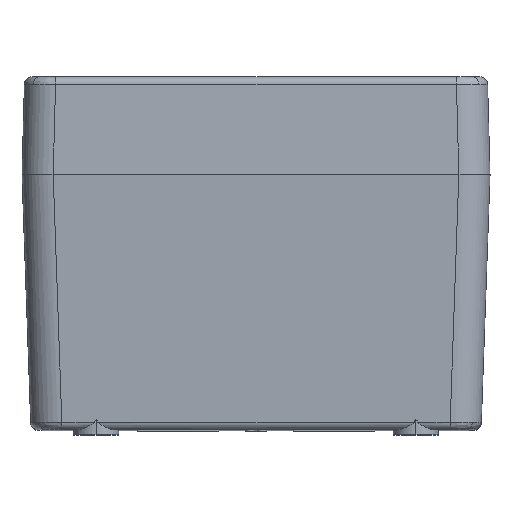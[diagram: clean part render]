
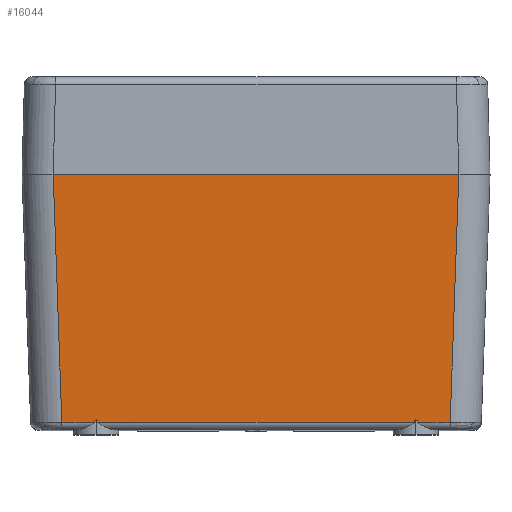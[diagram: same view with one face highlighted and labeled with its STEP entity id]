
A CAD part, top view. The second image highlights one B-rep face of the part: STEP entity #16044.
In plain terms, the highlighted planar face has unit normal (0, -0.035, 0.999).
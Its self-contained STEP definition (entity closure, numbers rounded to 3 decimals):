
#330 = CARTESIAN_POINT ( 'NONE',  ( 41., -63., 53. ) ) ;
#425 = CARTESIAN_POINT ( 'NONE',  ( 41.48, -63.57, 58.78 ) ) ;
#459 = ORIENTED_EDGE ( 'NONE', *, *, #4845, .T. ) ;
#491 = AXIS2_PLACEMENT_3D ( 'NONE', #9678, #1929, #11014 ) ;
#639 = DIRECTION ( 'NONE',  ( 0., 0., -1. ) ) ;
#815 = EDGE_LOOP ( 'NONE', ( #14766, #16260, #459, #14487, #3077, #12470, #15620, #6868, #8228, #10881, #2419, #12090, #3340, #14585 ) ) ;
#1444 = CARTESIAN_POINT ( 'NONE',  ( 41.01, -63., 58.8 ) ) ;
#1513 = CARTESIAN_POINT ( 'NONE',  ( -40.676, -63.198, 58.793 ) ) ;
#1640 = DIRECTION ( 'NONE',  ( 0., 0., -1. ) ) ;
#1891 = LINE ( 'NONE', #2070, #2310 ) ;
#1929 = DIRECTION ( 'NONE',  ( 0., -1., 0. ) ) ;
#1977 = CARTESIAN_POINT ( 'NONE',  ( 40.833, -63.008, 58.8 ) ) ;
#2070 = CARTESIAN_POINT ( 'NONE',  ( -60., 0., 61. ) ) ;
#2140 = VERTEX_POINT ( 'NONE', #5890 ) ;
#2189 = VERTEX_POINT ( 'NONE', #5786 ) ;
#2233 = DIRECTION ( 'NONE',  ( 0., -0.035, 0.999 ) ) ;
#2246 = CARTESIAN_POINT ( 'NONE',  ( -41.48, -63.57, 58.78 ) ) ;
#2310 = VECTOR ( 'NONE', #7360, 1000. ) ;
#2378 = VERTEX_POINT ( 'NONE', #2246 ) ;
#2419 = ORIENTED_EDGE ( 'NONE', *, *, #13109, .T. ) ;
#2659 = DIRECTION ( 'NONE',  ( 1., 0., 0. ) ) ;
#3009 = CARTESIAN_POINT ( 'NONE',  ( 41.01, -63., 58.8 ) ) ;
#3026 = CARTESIAN_POINT ( 'NONE',  ( 49.785, -63.57, 58.78 ) ) ;
#3077 = ORIENTED_EDGE ( 'NONE', *, *, #6624, .T. ) ;
#3221 = CARTESIAN_POINT ( 'NONE',  ( -52.005, 0., 61. ) ) ;
#3340 = ORIENTED_EDGE ( 'NONE', *, *, #13304, .F. ) ;
#3614 = VERTEX_POINT ( 'NONE', #3221 ) ;
#3729 = CARTESIAN_POINT ( 'NONE',  ( -41., -63., 58.8 ) ) ;
#3892 = CARTESIAN_POINT ( 'NONE',  ( -60., -63.57, 58.78 ) ) ;
#4489 = DIRECTION ( 'NONE',  ( 0., -1., 0. ) ) ;
#4818 =( BOUNDED_CURVE ( )  B_SPLINE_CURVE ( 3, ( #12373, #1977, #15029, #7192 ),
 .UNSPECIFIED., .F., .T. ) 
 B_SPLINE_CURVE_WITH_KNOTS ( ( 4, 4 ),
 ( 3.143, 3.224 ),
 .UNSPECIFIED. ) 
 CURVE ( )  GEOMETRIC_REPRESENTATION_ITEM ( )  RATIONAL_B_SPLINE_CURVE ( ( 1., 0.999, 0.999, 1. ) ) 
 REPRESENTATION_ITEM ( '' )  );
#4845 = EDGE_CURVE ( 'NONE', #14628, #2140, #12808, .T. ) ;
#5104 = VERTEX_POINT ( 'NONE', #9314 ) ;
#5418 =( BOUNDED_CURVE ( )  B_SPLINE_CURVE ( 3, ( #12477, #15076, #7292, #16443 ),
 .UNSPECIFIED., .F., .F. ) 
 B_SPLINE_CURVE_WITH_KNOTS ( ( 4, 4 ),
 ( 3.143, 3.224 ),
 .UNSPECIFIED. ) 
 CURVE ( )  GEOMETRIC_REPRESENTATION_ITEM ( )  RATIONAL_B_SPLINE_CURVE ( ( 1., 0.999, 0.999, 1. ) ) 
 REPRESENTATION_ITEM ( '' )  );
#5454 = EDGE_CURVE ( 'NONE', #7322, #14155, #10698, .T. ) ;
#5627 = AXIS2_PLACEMENT_3D ( 'NONE', #12267, #4489, #13604 ) ;
#5786 = CARTESIAN_POINT ( 'NONE',  ( 41.48, -63.57, 58.78 ) ) ;
#5890 = CARTESIAN_POINT ( 'NONE',  ( 52.005, 0., 61. ) ) ;
#5968 = EDGE_CURVE ( 'NONE', #2189, #14628, #9159, .T. ) ;
#6584 = EDGE_CURVE ( 'NONE', #13179, #13009, #7555, .T. ) ;
#6619 = DIRECTION ( 'NONE',  ( 1., 0., 0. ) ) ;
#6624 = EDGE_CURVE ( 'NONE', #3614, #10675, #7490, .T. ) ;
#6678 = VERTEX_POINT ( 'NONE', #13710 ) ;
#6695 = CARTESIAN_POINT ( 'NONE',  ( -40.833, -63.008, 58.8 ) ) ;
#6868 = ORIENTED_EDGE ( 'NONE', *, *, #16410, .F. ) ;
#6987 = CARTESIAN_POINT ( 'NONE',  ( -60., -63.57, 58.78 ) ) ;
#7192 = CARTESIAN_POINT ( 'NONE',  ( 40.52, -63.57, 58.78 ) ) ;
#7266 = CARTESIAN_POINT ( 'NONE',  ( 51.869, -3.902, 60.864 ) ) ;
#7292 = CARTESIAN_POINT ( 'NONE',  ( -41.324, -63.198, 58.793 ) ) ;
#7322 = VERTEX_POINT ( 'NONE', #1444 ) ;
#7353 = PLANE ( 'NONE',  #10072 ) ;
#7360 = DIRECTION ( 'NONE',  ( 1., 0., 0. ) ) ;
#7404 = VECTOR ( 'NONE', #12321, 1000. ) ;
#7490 = LINE ( 'NONE', #12263, #7404 ) ;
#7555 = CIRCLE ( 'NONE', #491, 5.8 ) ;
#7809 = VERTEX_POINT ( 'NONE', #8901 ) ;
#7951 = AXIS2_PLACEMENT_3D ( 'NONE', #16201, #8346, #639 ) ;
#7998 =( BOUNDED_CURVE ( )  B_SPLINE_CURVE ( 3, ( #14498, #1513, #6695, #15868 ),
 .UNSPECIFIED., .F., .F. ) 
 B_SPLINE_CURVE_WITH_KNOTS ( ( 4, 4 ),
 ( 3.059, 3.14 ),
 .UNSPECIFIED. ) 
 CURVE ( )  GEOMETRIC_REPRESENTATION_ITEM ( )  RATIONAL_B_SPLINE_CURVE ( ( 1., 0.999, 0.999, 1. ) ) 
 REPRESENTATION_ITEM ( '' )  );
#8115 = EDGE_CURVE ( 'NONE', #5104, #16330, #4818, .T. ) ;
#8201 =( BOUNDED_CURVE ( )  B_SPLINE_CURVE ( 3, ( #425, #10702, #10815, #3009 ),
 .UNSPECIFIED., .F., .F. ) 
 B_SPLINE_CURVE_WITH_KNOTS ( ( 4, 4 ),
 ( 3.059, 3.14 ),
 .UNSPECIFIED. ) 
 CURVE ( )  GEOMETRIC_REPRESENTATION_ITEM ( )  RATIONAL_B_SPLINE_CURVE ( ( 1., 0.999, 0.999, 1. ) ) 
 REPRESENTATION_ITEM ( '' )  );
#8228 = ORIENTED_EDGE ( 'NONE', *, *, #6584, .F. ) ;
#8240 = CIRCLE ( 'NONE', #5627, 5.8 ) ;
#8346 = DIRECTION ( 'NONE',  ( 0., -1., 0. ) ) ;
#8901 = CARTESIAN_POINT ( 'NONE',  ( -40.52, -63.57, 58.78 ) ) ;
#9139 = VECTOR ( 'NONE', #16134, 1000. ) ;
#9159 = LINE ( 'NONE', #6987, #9139 ) ;
#9314 = CARTESIAN_POINT ( 'NONE',  ( 40.99, -63., 58.8 ) ) ;
#9362 = DIRECTION ( 'NONE',  ( 0., -1., 0. ) ) ;
#9678 = CARTESIAN_POINT ( 'NONE',  ( -41., -63., 53. ) ) ;
#10072 = AXIS2_PLACEMENT_3D ( 'NONE', #15194, #2233, #11337 ) ;
#10675 = VERTEX_POINT ( 'NONE', #11553 ) ;
#10698 = CIRCLE ( 'NONE', #11356, 5.8 ) ;
#10702 = CARTESIAN_POINT ( 'NONE',  ( 41.324, -63.198, 58.793 ) ) ;
#10815 = CARTESIAN_POINT ( 'NONE',  ( 41.167, -63.008, 58.8 ) ) ;
#10881 = ORIENTED_EDGE ( 'NONE', *, *, #16283, .F. ) ;
#11014 = DIRECTION ( 'NONE',  ( 0., 0., -1. ) ) ;
#11028 = EDGE_CURVE ( 'NONE', #3614, #2140, #1891, .T. ) ;
#11199 = CARTESIAN_POINT ( 'NONE',  ( 41., -63., 58.8 ) ) ;
#11337 = DIRECTION ( 'NONE',  ( 0., -0.999, -0.035 ) ) ;
#11356 = AXIS2_PLACEMENT_3D ( 'NONE', #330, #9362, #1640 ) ;
#11553 = CARTESIAN_POINT ( 'NONE',  ( -49.785, -63.57, 58.78 ) ) ;
#12090 = ORIENTED_EDGE ( 'NONE', *, *, #8115, .F. ) ;
#12136 = VECTOR ( 'NONE', #6619, 1000. ) ;
#12228 = LINE ( 'NONE', #14477, #12136 ) ;
#12263 = CARTESIAN_POINT ( 'NONE',  ( -52.015, 0.279, 61.01 ) ) ;
#12267 = CARTESIAN_POINT ( 'NONE',  ( 41., -63., 53. ) ) ;
#12321 = DIRECTION ( 'NONE',  ( 0.035, -0.999, -0.035 ) ) ;
#12373 = CARTESIAN_POINT ( 'NONE',  ( 40.99, -63., 58.8 ) ) ;
#12470 = ORIENTED_EDGE ( 'NONE', *, *, #16760, .T. ) ;
#12477 = CARTESIAN_POINT ( 'NONE',  ( -41.01, -63., 58.8 ) ) ;
#12607 = VECTOR ( 'NONE', #16416, 1000. ) ;
#12808 = LINE ( 'NONE', #7266, #12607 ) ;
#13009 = VERTEX_POINT ( 'NONE', #3729 ) ;
#13109 = EDGE_CURVE ( 'NONE', #7809, #16330, #15015, .T. ) ;
#13179 = VERTEX_POINT ( 'NONE', #14646 ) ;
#13304 = EDGE_CURVE ( 'NONE', #14155, #5104, #8240, .T. ) ;
#13398 = CIRCLE ( 'NONE', #7951, 5.8 ) ;
#13604 = DIRECTION ( 'NONE',  ( 0., 0., -1. ) ) ;
#13710 = CARTESIAN_POINT ( 'NONE',  ( -41.01, -63., 58.8 ) ) ;
#13942 = FACE_OUTER_BOUND ( 'NONE', #815, .T. ) ;
#14155 = VERTEX_POINT ( 'NONE', #11199 ) ;
#14477 = CARTESIAN_POINT ( 'NONE',  ( -60., -63.57, 58.78 ) ) ;
#14487 = ORIENTED_EDGE ( 'NONE', *, *, #11028, .F. ) ;
#14498 = CARTESIAN_POINT ( 'NONE',  ( -40.52, -63.57, 58.78 ) ) ;
#14585 = ORIENTED_EDGE ( 'NONE', *, *, #5454, .F. ) ;
#14628 = VERTEX_POINT ( 'NONE', #3026 ) ;
#14646 = CARTESIAN_POINT ( 'NONE',  ( -40.99, -63., 58.8 ) ) ;
#14714 = CARTESIAN_POINT ( 'NONE',  ( 40.52, -63.57, 58.78 ) ) ;
#14766 = ORIENTED_EDGE ( 'NONE', *, *, #16308, .F. ) ;
#14767 = EDGE_CURVE ( 'NONE', #6678, #2378, #5418, .T. ) ;
#15015 = LINE ( 'NONE', #3892, #15216 ) ;
#15029 = CARTESIAN_POINT ( 'NONE',  ( 40.676, -63.198, 58.793 ) ) ;
#15076 = CARTESIAN_POINT ( 'NONE',  ( -41.167, -63.008, 58.8 ) ) ;
#15194 = CARTESIAN_POINT ( 'NONE',  ( -60., 0., 61. ) ) ;
#15216 = VECTOR ( 'NONE', #2659, 1000. ) ;
#15620 = ORIENTED_EDGE ( 'NONE', *, *, #14767, .F. ) ;
#15868 = CARTESIAN_POINT ( 'NONE',  ( -40.99, -63., 58.8 ) ) ;
#16044 = ADVANCED_FACE ( 'NONE', ( #13942 ), #7353, .T. ) ;
#16134 = DIRECTION ( 'NONE',  ( 1., 0., 0. ) ) ;
#16201 = CARTESIAN_POINT ( 'NONE',  ( -41., -63., 53. ) ) ;
#16260 = ORIENTED_EDGE ( 'NONE', *, *, #5968, .T. ) ;
#16283 = EDGE_CURVE ( 'NONE', #7809, #13179, #7998, .T. ) ;
#16308 = EDGE_CURVE ( 'NONE', #2189, #7322, #8201, .T. ) ;
#16330 = VERTEX_POINT ( 'NONE', #14714 ) ;
#16410 = EDGE_CURVE ( 'NONE', #13009, #6678, #13398, .T. ) ;
#16416 = DIRECTION ( 'NONE',  ( 0.035, 0.999, 0.035 ) ) ;
#16443 = CARTESIAN_POINT ( 'NONE',  ( -41.48, -63.57, 58.78 ) ) ;
#16760 = EDGE_CURVE ( 'NONE', #10675, #2378, #12228, .T. ) ;
